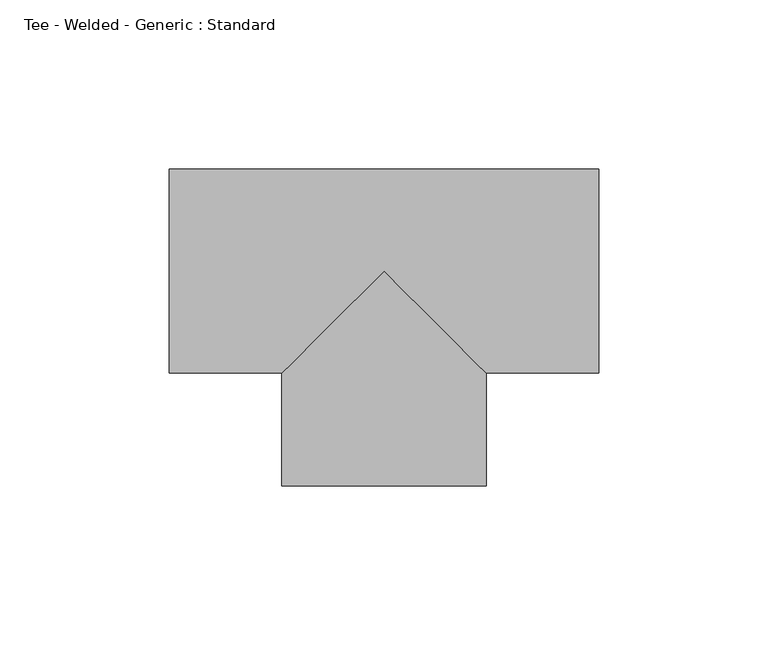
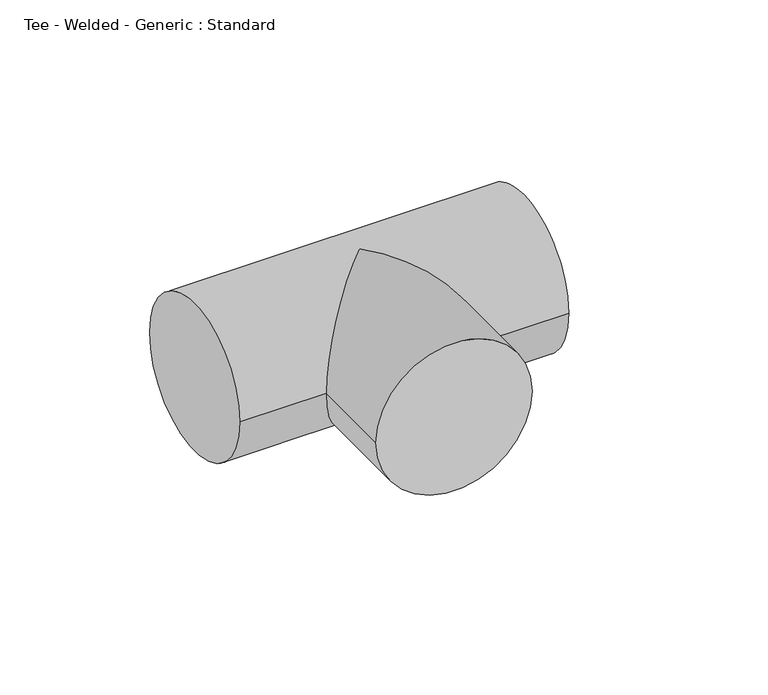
"""IFC4 building model written with IfcOpenShell, lengths in millimetres: pipe fitting geometry, Tee - Welded - Generic : Standard."""

from ifc_helpers import new_model, si_unit, frame, origin, place, context, project, spatial, circle_curve, ellipse_curve, source, transform, mapped, element, save
from ifc_brep_helpers import plane_surface, cylinder_surface, advanced_brep


def tee_welded_generic_standard_655e4f1a(model_context):
    return source(origin(), model_context, "Body", "AdvancedBrep", [
        advanced_brep(
        [(-63.5, -30.1625, 0.0), (-63.5, 30.1625, 0.0), (63.5, -30.1625, 0.0), (63.5, 30.1625, 0.0), (-30.1608617, -30.1625, 0.0), (0.0, 0.0, 30.1625), (30.1641384, -30.1625, 0.0), (0.0, 0.0, -30.1625), (-30.1590508, -63.5016382, 0.0), (30.1659491, -63.4983616, 0.0)],
        [
            (0, 1, circle_curve(frame((-63.5, 0.0, 0.0), z_axis=(-1.0, 0.0, 0.0), x_axis=(0.0, 1.0, 0.0)), 30.1625)),
            (1, 0, circle_curve(frame((-63.5, 0.0, 0.0), z_axis=(-1.0, 0.0, 0.0), x_axis=(0.0, 1.0, 0.0)), 30.1625)),
            (2, 3, circle_curve(frame((63.5, 0.0, 0.0), z_axis=(1.0, 0.0, 0.0), x_axis=(0.0, 1.0, 0.0)), 30.1625)),
            (3, 2, circle_curve(frame((63.5, 0.0, 0.0), z_axis=(1.0, 0.0, 0.0), x_axis=(0.0, 1.0, 0.0)), 30.1625)),
            (0, 4),
            (4, 5, ellipse_curve(frame((0.0, 0.0, 0.0), z_axis=(-0.7071259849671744, 0.7070875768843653, 0.0), x_axis=(-0.7070875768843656, -0.7071259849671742, 0.0)), 42.6550581, 30.1625)),
            (5, 6, ellipse_curve(frame((0.0, 0.0, 0.0), z_axis=(0.7070875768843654, 0.7071259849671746, 0.0), x_axis=(-0.7071259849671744, 0.7070875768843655, 0.0)), 42.6573751, 30.1625)),
            (6, 2),
            (3, 1),
            (6, 7, ellipse_curve(frame((0.0, 0.0, 0.0), z_axis=(0.7070875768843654, 0.7071259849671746, 0.0), x_axis=(-0.7071259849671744, 0.7070875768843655, 0.0)), 42.6573751, 30.1625)),
            (7, 4, ellipse_curve(frame((0.0, 0.0, 0.0), z_axis=(-0.7071259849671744, 0.7070875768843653, 0.0), x_axis=(-0.7070875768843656, -0.7071259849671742, 0.0)), 42.6550581, 30.1625)),
            (8, 9, circle_curve(frame((0.0034491, -63.4999999, 0.0), z_axis=(5.431723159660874e-05, -0.9999999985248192, 0.0), x_axis=(0.9999999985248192, 5.431723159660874e-05, 0.0)), 30.1625)),
            (9, 8, circle_curve(frame((0.0034491, -63.4999999, 0.0), z_axis=(5.431723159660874e-05, -0.9999999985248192, 0.0), x_axis=(0.9999999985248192, 5.431723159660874e-05, 0.0)), 30.1625)),
            (9, 6),
            (4, 8),
        ],
        [
            plane_surface(frame((-63.5, 0.0, 0.0), z_axis=(-1.0, 0.0, 0.0), x_axis=(0.0, 0.0, 1.0))),
            plane_surface(frame((63.5, 0.0, 0.0), z_axis=(1.0, 0.0, 0.0), x_axis=(0.0, 0.0, 1.0))),
            cylinder_surface(frame((-63.5, 0.0, 0.0), z_axis=(-1.0, 0.0, 0.0), x_axis=(0.0, 1.0, 0.0)), 30.1625),
            plane_surface(frame((0.0034491, -63.4999999, 0.0), z_axis=(5.431723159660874e-05, -0.9999999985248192, 0.0), x_axis=(0.0, 0.0, 1.0))),
            cylinder_surface(frame((0.0, 0.0, 0.0), z_axis=(-5.431723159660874e-05, 0.9999999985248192, 0.0), x_axis=(0.9999999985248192, 5.431723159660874e-05, 0.0)), 30.1625),
        ],
        [
            (0, [[1, 2]]),
            (1, [[3, 4]]),
            (2, [[-1, 5, 6, 7, 8, -4, 9]]),
            (2, [[-2, -9, -3, -8, 10, 11, -5]]),
            (3, [[12, 13]]),
            (4, [[-13, 14, -7, -6, 15]]),
            (4, [[-12, -15, -11, -10, -14]]),
        ],
    ),
    ])


if __name__ == "__main__":
    model = new_model("IFC4")
    model_context = context("Model", 3, world=origin())
    ifc_project = project(units=[si_unit("LENGTHUNIT", "METRE", prefix="MILLI")], contexts=[model_context])
    site = spatial("IfcSite", under=ifc_project)
    building = spatial("IfcBuilding", under=site)
    placement = place(None, origin())
    tee_welded_generic_standard_shape = tee_welded_generic_standard_655e4f1a(model_context)
    element("IfcPipeFitting", 1, ObjectType="Tee - Welded - Generic : Standard", at=placement, inside=building, context=model_context, shape_type="MappedRepresentation", body=[
        mapped(tee_welded_generic_standard_shape, transform((0.0, 0.0, 0.0), x_axis=(1.0, 0.0, 0.0), y_axis=(0.0, 1.0, 0.0), z_axis=(0.0, 0.0, 1.0))),
    ])
    save(model, "model.ifc")
